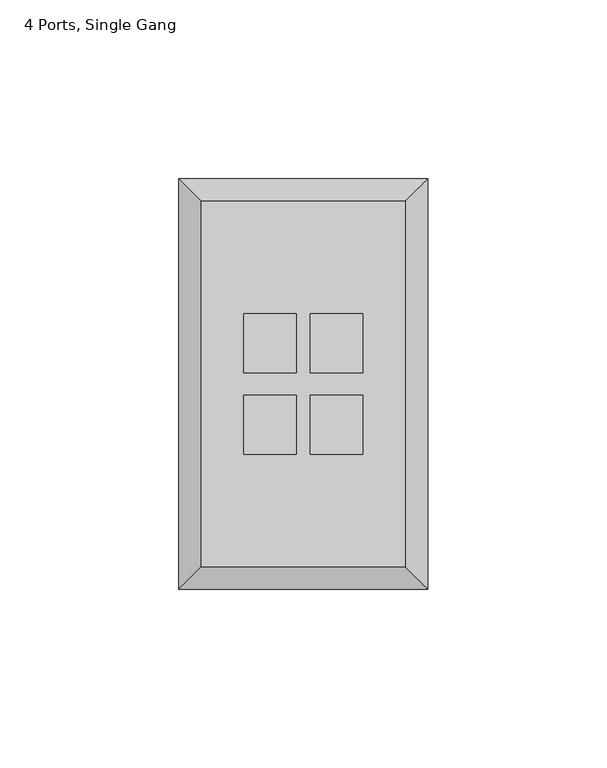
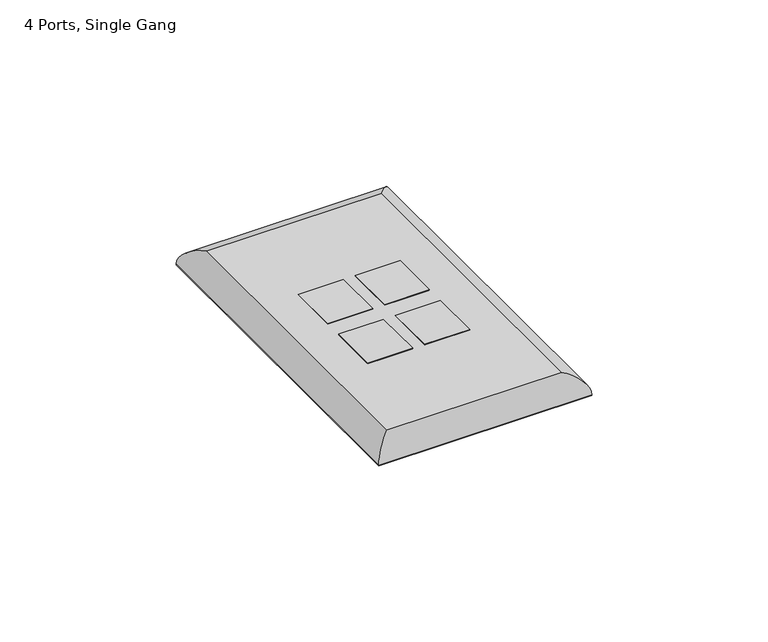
"""IFC4 building model written with IfcOpenShell, lengths in millimetres: electric appliance geometry, Data_Device-Work_Area-Leviton-QuickPort-Wallplate : 4 Ports, Single Gang."""

from ifc_helpers import new_model, si_unit, frame, origin, origin_with_axes, place, context, project, spatial, polyline, ellipse_curve, outline, extrude, source, transform, mapped, element, save
from ifc_brep_helpers import plane_surface, cylinder_surface, advanced_brep


def electric_appliance_4_ports_single_gang_7dc7a75e(model_context):
    return source(origin(), model_context, "Body", "SolidModel", [
        extrude(outline(polyline([(-24.9936, 27.813), (-24.9936, 11.303), (-39.7256, 11.303), (-39.7256, 27.813), (-24.9936, 27.813)])), origin_with_axes(), (0.0, 0.0, 1.0), 6.35),
        extrude(outline(polyline([(-24.9936, 5.08), (-24.9936, -11.43), (-39.7256, -11.43), (-39.7256, 5.08), (-24.9936, 5.08)])), origin_with_axes(), (0.0, 0.0, 1.0), 6.35),
        extrude(outline(polyline([(-6.3246, 27.813), (-6.3246, 11.303), (-21.0566, 11.303), (-21.0566, 27.813), (-6.3246, 27.813)])), origin_with_axes(), (0.0, 0.0, 1.0), 6.35),
        extrude(outline(polyline([(-6.3246, 5.08), (-6.3246, -11.43), (-21.0566, -11.43), (-21.0566, 5.08), (-6.3246, 5.08)])), origin_with_axes(), (0.0, 0.0, 1.0), 6.35),
        advanced_brep(
        [(5.5499, -42.9895, 6.35), (5.5499, 59.3725, 6.35), (-51.6001, 59.3725, 6.35), (-51.6001, -42.9895, 6.35), (-39.7256, 27.813, 6.35), (-24.9936, 27.813, 6.35), (-24.9936, 11.303, 6.35), (-39.7256, 11.303, 6.35), (-39.7256, 5.08, 6.35), (-24.9936, 5.08, 6.35), (-24.9936, -11.43, 6.35), (-39.7256, -11.43, 6.35), (-21.0566, 27.813, 6.35), (-6.3246, 27.813, 6.35), (-6.3246, 11.303, 6.35), (-21.0566, 11.303, 6.35), (-21.0566, 5.08, 6.35), (-6.3246, 5.08, 6.35), (-6.3246, -11.43, 6.35), (-21.0566, -11.43, 6.35), (11.8999, 65.7225, 0.0), (11.8999, -49.3395, 0.0), (-57.9501, -49.3395, 0.0), (-57.9501, 65.7225, 0.0), (-24.9936, 27.813, 0.0), (-39.7256, 27.813, 0.0), (-39.7256, 11.303, 0.0), (-24.9936, 11.303, 0.0), (-24.9936, 5.08, 0.0), (-39.7256, 5.08, 0.0), (-39.7256, -11.43, 0.0), (-24.9936, -11.43, 0.0), (-6.3246, 27.813, 0.0), (-21.0566, 27.813, 0.0), (-21.0566, 11.303, 0.0), (-6.3246, 11.303, 0.0), (-6.3246, 5.08, 0.0), (-21.0566, 5.08, 0.0), (-21.0566, -11.43, 0.0), (-6.3246, -11.43, 0.0), (-57.9501, 65.7225, 0.254), (11.8999, 65.7225, 0.254), (-57.9501, -49.3395, 0.254), (11.8999, -49.3395, 0.254)],
        [
            (0, 1),
            (1, 2),
            (2, 3),
            (3, 0),
            (4, 5),
            (5, 6),
            (6, 7),
            (7, 4),
            (8, 9),
            (9, 10),
            (10, 11),
            (11, 8),
            (12, 13),
            (13, 14),
            (14, 15),
            (15, 12),
            (16, 17),
            (17, 18),
            (18, 19),
            (19, 16),
            (20, 21),
            (21, 22),
            (22, 23),
            (23, 20),
            (24, 25),
            (25, 26),
            (26, 27),
            (27, 24),
            (28, 29),
            (29, 30),
            (30, 31),
            (31, 28),
            (32, 33),
            (33, 34),
            (34, 35),
            (35, 32),
            (36, 37),
            (37, 38),
            (38, 39),
            (39, 36),
            (23, 40),
            (40, 41),
            (41, 20),
            (22, 42),
            (42, 40),
            (21, 43),
            (43, 42),
            (41, 43),
            (4, 25),
            (24, 5),
            (7, 26),
            (6, 27),
            (8, 29),
            (28, 9),
            (11, 30),
            (10, 31),
            (12, 33),
            (32, 13),
            (15, 34),
            (14, 35),
            (16, 37),
            (36, 17),
            (19, 38),
            (18, 39),
            (0, 43, ellipse_curve(frame((5.5499, -42.9895, -0.0052917), z_axis=(0.7071067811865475, 0.7071067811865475, 0.0), x_axis=(0.7071067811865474, -0.7071067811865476, 0.0)), 8.9877397, 6.3552917)),
            (41, 1, ellipse_curve(frame((5.5499, 59.3725, -0.0052917), z_axis=(0.7071067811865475, -0.7071067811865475, 0.0), x_axis=(-0.7071067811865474, -0.7071067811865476, 0.0)), 8.9877397, 6.3552917)),
            (3, 42, ellipse_curve(frame((-51.6001, -42.9895, -0.0052917), z_axis=(0.7071067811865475, -0.7071067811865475, 0.0), x_axis=(-0.7071067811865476, -0.7071067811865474, 0.0)), 8.9877397, 6.3552917)),
            (2, 40, ellipse_curve(frame((-51.6001, 59.3725, -0.0052917), z_axis=(-0.7071067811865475, -0.7071067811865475, 0.0), x_axis=(-0.7071067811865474, 0.7071067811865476, 0.0)), 8.9877397, 6.3552917)),
        ],
        [
            plane_surface(frame((-57.9501, 65.7225, 6.35), z_axis=(0.0, 0.0, 1.0), x_axis=(-1.0, 0.0, 0.0))),
            plane_surface(frame((-57.9501, 65.7225, 0.0), z_axis=(0.0, 0.0, -1.0), x_axis=(1.0, 0.0, 0.0))),
            plane_surface(frame((11.8999, 65.7225, 6.35), z_axis=(0.0, 1.0, 0.0), x_axis=(0.0, 0.0, -1.0))),
            plane_surface(frame((-57.9501, 65.7225, 6.35), z_axis=(-1.0, 0.0, 0.0), x_axis=(0.0, 0.0, -1.0))),
            plane_surface(frame((-57.9501, -49.3395, 6.35), z_axis=(0.0, -1.0, 0.0), x_axis=(0.0, 0.0, -1.0))),
            plane_surface(frame((11.8999, -49.3395, 6.35), z_axis=(1.0, 0.0, 0.0), x_axis=(0.0, 0.0, -1.0))),
            plane_surface(frame((-24.9936, 27.813, 6.35), z_axis=(0.0, -1.0, 0.0), x_axis=(0.0, 0.0, -1.0))),
            plane_surface(frame((-39.7256, 27.813, 6.35), z_axis=(1.0, 0.0, 0.0), x_axis=(0.0, 0.0, -1.0))),
            plane_surface(frame((-39.7256, 11.303, 6.35), z_axis=(0.0, 1.0, 0.0), x_axis=(0.0, 0.0, -1.0))),
            plane_surface(frame((-24.9936, 11.303, 6.35), z_axis=(-1.0, 0.0, 0.0), x_axis=(0.0, 0.0, -1.0))),
            plane_surface(frame((-24.9936, 5.08, 6.35), z_axis=(0.0, -1.0, 0.0), x_axis=(0.0, 0.0, -1.0))),
            plane_surface(frame((-39.7256, 5.08, 6.35), z_axis=(1.0, 0.0, 0.0), x_axis=(0.0, 0.0, -1.0))),
            plane_surface(frame((-39.7256, -11.43, 6.35), z_axis=(0.0, 1.0, 0.0), x_axis=(0.0, 0.0, -1.0))),
            plane_surface(frame((-24.9936, -11.43, 6.35), z_axis=(-1.0, 0.0, 0.0), x_axis=(0.0, 0.0, -1.0))),
            plane_surface(frame((-6.3246, 27.813, 6.35), z_axis=(0.0, -1.0, 0.0), x_axis=(0.0, 0.0, -1.0))),
            plane_surface(frame((-21.0566, 27.813, 6.35), z_axis=(1.0, 0.0, 0.0), x_axis=(0.0, 0.0, -1.0))),
            plane_surface(frame((-21.0566, 11.303, 6.35), z_axis=(0.0, 1.0, 0.0), x_axis=(0.0, 0.0, -1.0))),
            plane_surface(frame((-6.3246, 11.303, 6.35), z_axis=(-1.0, 0.0, 0.0), x_axis=(0.0, 0.0, -1.0))),
            plane_surface(frame((-6.3246, 5.08, 6.35), z_axis=(0.0, -1.0, 0.0), x_axis=(0.0, 0.0, -1.0))),
            plane_surface(frame((-21.0566, 5.08, 6.35), z_axis=(1.0, 0.0, 0.0), x_axis=(0.0, 0.0, -1.0))),
            plane_surface(frame((-21.0566, -11.43, 6.35), z_axis=(0.0, 1.0, 0.0), x_axis=(0.0, 0.0, -1.0))),
            plane_surface(frame((-6.3246, -11.43, 6.35), z_axis=(-1.0, 0.0, 0.0), x_axis=(0.0, 0.0, -1.0))),
            cylinder_surface(frame((5.5499, 65.7225, -0.0052917), z_axis=(0.0, -1.0, 0.0), x_axis=(1.0, 0.0, 0.0)), 6.3552917),
            cylinder_surface(frame((11.8999, -42.9895, -0.0052917), z_axis=(-1.0, 0.0, 0.0), x_axis=(0.0, -1.0, 0.0)), 6.3552917),
            cylinder_surface(frame((-51.6001, -49.3395, -0.0052917), z_axis=(0.0, 1.0, 0.0), x_axis=(-1.0, 0.0, 0.0)), 6.3552917),
            cylinder_surface(frame((-57.9501, 59.3725, -0.0052917), z_axis=(1.0, 0.0, 0.0), x_axis=(0.0, 1.0, 0.0)), 6.3552917),
        ],
        [
            (0, [[1, 2, 3, 4], [5, 6, 7, 8], [9, 10, 11, 12], [13, 14, 15, 16], [17, 18, 19, 20]]),
            (1, [[21, 22, 23, 24], [25, 26, 27, 28], [29, 30, 31, 32], [33, 34, 35, 36], [37, 38, 39, 40]]),
            (2, [[-24, 41, 42, 43]]),
            (3, [[-23, 44, 45, -41]]),
            (4, [[-22, 46, 47, -44]]),
            (5, [[-21, -43, 48, -46]]),
            (6, [[49, -25, 50, -5]]),
            (7, [[-49, -8, 51, -26]]),
            (8, [[-51, -7, 52, -27]]),
            (9, [[-50, -28, -52, -6]]),
            (10, [[53, -29, 54, -9]]),
            (11, [[-53, -12, 55, -30]]),
            (12, [[-55, -11, 56, -31]]),
            (13, [[-54, -32, -56, -10]]),
            (14, [[57, -33, 58, -13]]),
            (15, [[-57, -16, 59, -34]]),
            (16, [[-59, -15, 60, -35]]),
            (17, [[-58, -36, -60, -14]]),
            (18, [[61, -37, 62, -17]]),
            (19, [[-61, -20, 63, -38]]),
            (20, [[-63, -19, 64, -39]]),
            (21, [[-62, -40, -64, -18]]),
            (22, [[65, -48, 66, -1]]),
            (23, [[-65, -4, 67, -47]]),
            (24, [[-67, -3, 68, -45]]),
            (25, [[-66, -42, -68, -2]]),
        ],
    ),
        extrude(outline(polyline([(11.6459, 65.4685), (11.6459, -49.0855), (-57.6961, -49.0855), (-57.6961, 65.4685), (11.6459, 65.4685)]), holes=[polyline([(-24.9936, 27.813), (-39.7256, 27.813), (-39.7256, 11.303), (-24.9936, 11.303), (-24.9936, 27.813)]), polyline([(-24.9936, 5.08), (-39.7256, 5.08), (-39.7256, -11.43), (-24.9936, -11.43), (-24.9936, 5.08)]), polyline([(-6.3246, 27.813), (-21.0566, 27.813), (-21.0566, 11.303), (-6.3246, 11.303), (-6.3246, 27.813)]), polyline([(-6.3246, 5.08), (-21.0566, 5.08), (-21.0566, -11.43), (-6.3246, -11.43), (-6.3246, 5.08)])]), origin_with_axes(), (0.0, 0.0, 1.0), 0.254),
    ])


if __name__ == "__main__":
    model = new_model("IFC4")
    model_context = context("Model", 3, world=origin())
    ifc_project = project(units=[si_unit("LENGTHUNIT", "METRE", prefix="MILLI")], contexts=[model_context])
    site = spatial("IfcSite", under=ifc_project)
    building = spatial("IfcBuilding", under=site)
    placement = place(None, origin())
    electric_appliance_4_ports_single_gang_shape = electric_appliance_4_ports_single_gang_7dc7a75e(model_context)
    element("IfcElectricAppliance", 1, ObjectType="Data_Device-Work_Area-Leviton-QuickPort-Wallplate : 4 Ports, Single Gang", at=placement, inside=building, context=model_context, shape_type="MappedRepresentation", body=[
        mapped(electric_appliance_4_ports_single_gang_shape, transform((0.0, 0.0, 0.0), x_axis=(1.0, 0.0, 0.0), y_axis=(0.0, 1.0, 0.0), z_axis=(0.0, 0.0, 1.0))),
    ])
    save(model, "model.ifc")
